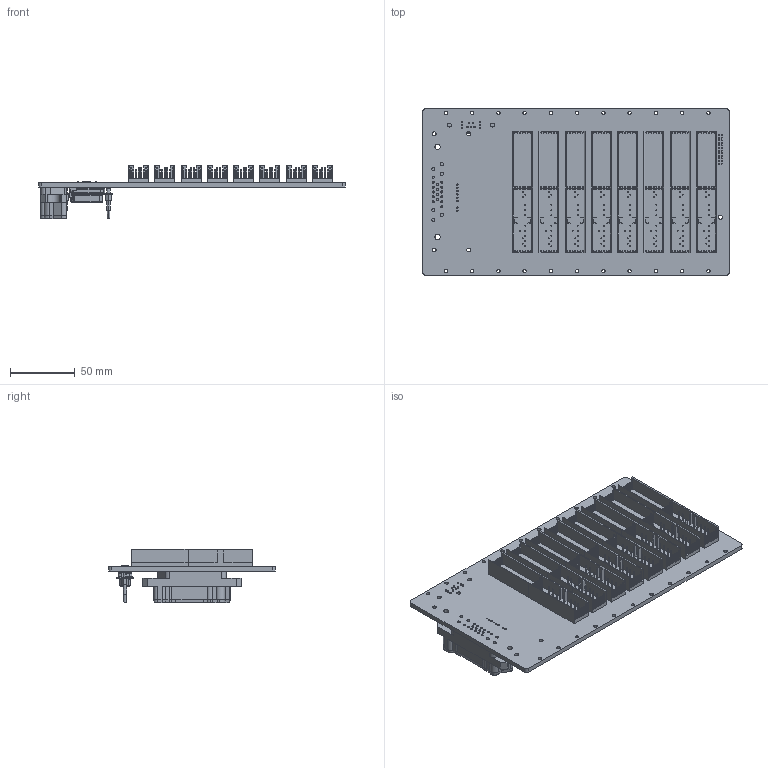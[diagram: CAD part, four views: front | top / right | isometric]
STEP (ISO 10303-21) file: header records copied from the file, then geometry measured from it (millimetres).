
FILE_DESCRIPTION((''),'2;1');
FILE_NAME('CU_PXI-8-SLOT_BACKPLANE','2011-08-17T',('talbott'),(''),'PRO/ENGINEER BY PARAMETRIC TECHNOLOGY CORPORATION, 2010230','PRO/ENGINEER BY PARAMETRIC TECHNOLOGY CORPORATION, 2010230','');
FILE_SCHEMA(('CONFIG_CONTROL_DESIGN'));
Products named in the file (1): CU_PXI-8-SLOT_BACKPLANE
Bounding box: 237.13 x 128.68 x 41.78 mm (x, y, z)
Volume: 175516.4 mm3; surface area: 121636.4 mm2
Topology: 2 solids, 3 shells, 3166 faces, 6867 edges, 4526 vertices
Faces by surface type: cylinder 1757, plane 1351, cone 42, torus 16
Entity records: 88217 total; most frequent: DIRECTION 16775, CARTESIAN_POINT 14784, ORIENTED_EDGE 13734, EDGE_CURVE 6867, AXIS2_PLACEMENT_3D 6769, VERTEX_POINT 4526, EDGE_LOOP 4135, CIRCLE 3602
